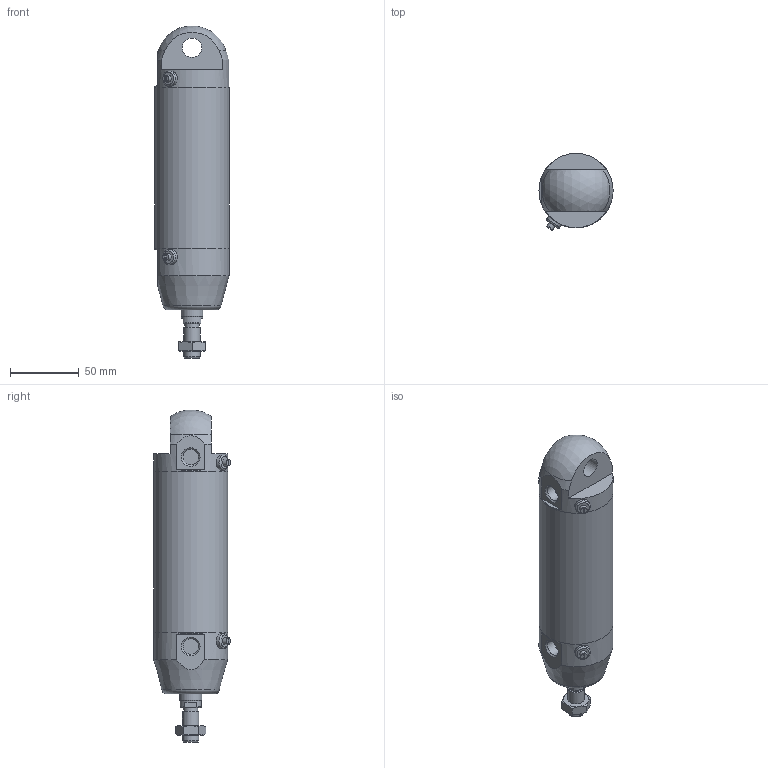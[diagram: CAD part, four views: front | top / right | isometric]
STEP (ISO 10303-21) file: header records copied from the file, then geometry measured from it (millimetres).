
FILE_DESCRIPTION(/* description */ (''),/* implementation_level */ '2;1');
FILE_NAME(/* name */ 'I:\Area Tecnica\Documenti\A-Manieri\_Inventor\12X\12X#A_###_####_#_#\12XBA_050_0075_#_#.stp',/* time_stamp */ '2015-04-24T09:18:35+02:00',/* author */ ('maniean1'),/* organization */ ('Pneumax S.p.A.'),/* preprocessor_version */ 'ST-DEVELOPER v15.2',/* originating_system */ 'Autodesk Inventor 2014',/* authorisation */ '');
FILE_SCHEMA (('AUTOMOTIVE_DESIGN { 1 0 10303 214 3 1 1 }'));
Length unit declared in the file: millimetre
Products named in the file (6): C1250_619-0075; 12X50_614; 12X50_607; S12X50_0075; 12X_50_11; 12XBA_050_0075_#_#
Bounding box: 54 x 55.88 x 241.83 mm (x, y, z)
Volume: 294442.4 mm3; surface area: 82273 mm2
Topology: 5 solids, 5 shells, 77 faces, 168 edges, 109 vertices
Faces by surface type: plane 43, cylinder 18, cone 12, torus 3, sphere 1
Full cylindrical faces by diameter (mm): 5 x2, 10.2 x1, 11 x2, 11.4 x2, 12 x2, 14 x2, 15.6 x1, 16 x1, 50 x2, 54 x3
Entity records: 2072 total; most frequent: CARTESIAN_POINT 428, DIRECTION 346, ORIENTED_EDGE 260, AXIS2_PLACEMENT_3D 152, EDGE_CURVE 130, EDGE_LOOP 122, VERTEX_POINT 100, ADVANCED_FACE 77
